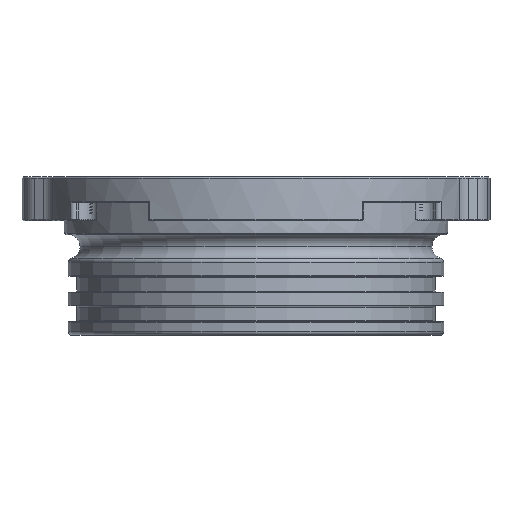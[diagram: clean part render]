
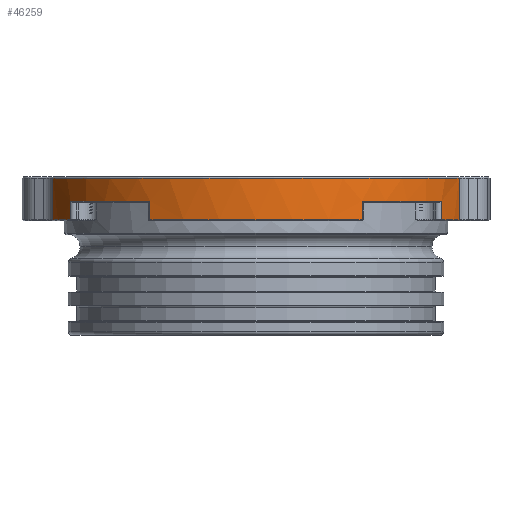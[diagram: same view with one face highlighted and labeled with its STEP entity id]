
A CAD part, front view. The second image highlights one B-rep face of the part: STEP entity #46259.
In plain terms, the highlighted cylindrical face has radius 29 mm (diameter 58 mm), a partial arc.
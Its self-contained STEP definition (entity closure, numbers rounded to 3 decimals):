
#421 = EDGE_CURVE ( 'NONE', #17888, #73580, #60900, .T. ) ;
#586 = VECTOR ( 'NONE', #50448, 1000. ) ;
#2095 = EDGE_CURVE ( 'NONE', #41520, #43624, #24120, .T. ) ;
#2153 = CARTESIAN_POINT ( 'NONE',  ( 14.387, -25.18, 15.7 ) ) ;
#2290 = EDGE_CURVE ( 'NONE', #18908, #17888, #24493, .T. ) ;
#2455 = VECTOR ( 'NONE', #68515, 1000. ) ;
#2671 = CARTESIAN_POINT ( 'NONE',  ( 14.387, -25.18, 0. ) ) ;
#3799 = VERTEX_POINT ( 'NONE', #11006 ) ;
#4275 = VERTEX_POINT ( 'NONE', #56022 ) ;
#4534 = AXIS2_PLACEMENT_3D ( 'NONE', #28830, #34690, #23327 ) ;
#4700 = CARTESIAN_POINT ( 'NONE',  ( -27.555, -9.039, 21.3 ) ) ;
#5004 = VERTEX_POINT ( 'NONE', #2153 ) ;
#5023 = CARTESIAN_POINT ( 'NONE',  ( 0., 0., 21.3 ) ) ;
#6582 = CIRCLE ( 'NONE', #32821, 29. ) ;
#7476 = ORIENTED_EDGE ( 'NONE', *, *, #2095, .T. ) ;
#8871 = DIRECTION ( 'NONE',  ( 0., 0., 1. ) ) ;
#11006 = CARTESIAN_POINT ( 'NONE',  ( -27.555, -9.039, 15.7 ) ) ;
#11600 = ORIENTED_EDGE ( 'NONE', *, *, #36692, .T. ) ;
#13180 = CARTESIAN_POINT ( 'NONE',  ( 0., 0., 0. ) ) ;
#13344 = CARTESIAN_POINT ( 'NONE',  ( -14.387, -25.18, 15.7 ) ) ;
#15807 = AXIS2_PLACEMENT_3D ( 'NONE', #40463, #47858, #76407 ) ;
#15940 = ORIENTED_EDGE ( 'NONE', *, *, #72070, .T. ) ;
#17888 = VERTEX_POINT ( 'NONE', #35080 ) ;
#18353 = EDGE_LOOP ( 'NONE', ( #27210, #75225, #7476, #11600, #56088, #66859, #55709, #43417, #29220, #15940, #31888, #67085 ) ) ;
#18908 = VERTEX_POINT ( 'NONE', #62250 ) ;
#19142 = CARTESIAN_POINT ( 'NONE',  ( -25.18, -14.387, 15.7 ) ) ;
#20158 = DIRECTION ( 'NONE',  ( -1., 0., 0. ) ) ;
#20906 = LINE ( 'NONE', #56107, #56324 ) ;
#20938 = DIRECTION ( 'NONE',  ( 0., 0., 1. ) ) ;
#21797 = LINE ( 'NONE', #2671, #61169 ) ;
#21966 = LINE ( 'NONE', #56403, #2455 ) ;
#22760 = VERTEX_POINT ( 'NONE', #65057 ) ;
#23327 = DIRECTION ( 'NONE',  ( -1., 0., 0. ) ) ;
#23492 = AXIS2_PLACEMENT_3D ( 'NONE', #5023, #69919, #52708 ) ;
#24120 = LINE ( 'NONE', #47975, #65730 ) ;
#24493 = CIRCLE ( 'NONE', #74449, 29. ) ;
#24512 = EDGE_CURVE ( 'NONE', #51114, #4275, #67642, .T. ) ;
#25276 = AXIS2_PLACEMENT_3D ( 'NONE', #53504, #60521, #30832 ) ;
#26762 = CARTESIAN_POINT ( 'NONE',  ( 25.18, -14.387, 15.7 ) ) ;
#26941 = DIRECTION ( 'NONE',  ( 0., 0., 1. ) ) ;
#27210 = ORIENTED_EDGE ( 'NONE', *, *, #50574, .T. ) ;
#27576 = VERTEX_POINT ( 'NONE', #4700 ) ;
#28539 = CIRCLE ( 'NONE', #23492, 29. ) ;
#28830 = CARTESIAN_POINT ( 'NONE',  ( 0., 0., 18.2 ) ) ;
#29220 = ORIENTED_EDGE ( 'NONE', *, *, #421, .T. ) ;
#30832 = DIRECTION ( 'NONE',  ( 1., 0., 0. ) ) ;
#31888 = ORIENTED_EDGE ( 'NONE', *, *, #24512, .T. ) ;
#32821 = AXIS2_PLACEMENT_3D ( 'NONE', #48842, #26941, #62511 ) ;
#34690 = DIRECTION ( 'NONE',  ( 0., 0., 1. ) ) ;
#35080 = CARTESIAN_POINT ( 'NONE',  ( 25.18, -14.387, 18.2 ) ) ;
#36692 = EDGE_CURVE ( 'NONE', #43624, #22760, #63176, .T. ) ;
#37009 = CIRCLE ( 'NONE', #15807, 29. ) ;
#37064 = EDGE_CURVE ( 'NONE', #39364, #5004, #37009, .T. ) ;
#38906 = DIRECTION ( 'NONE',  ( 0., 0., -1. ) ) ;
#39243 = VECTOR ( 'NONE', #67143, 1000. ) ;
#39364 = VERTEX_POINT ( 'NONE', #13344 ) ;
#39793 = DIRECTION ( 'NONE',  ( 0., 0., 1. ) ) ;
#40463 = CARTESIAN_POINT ( 'NONE',  ( 0., 0., 15.7 ) ) ;
#41520 = VERTEX_POINT ( 'NONE', #19142 ) ;
#42932 = CARTESIAN_POINT ( 'NONE',  ( 25.18, -14.387, 0. ) ) ;
#43417 = ORIENTED_EDGE ( 'NONE', *, *, #2290, .T. ) ;
#43624 = VERTEX_POINT ( 'NONE', #67775 ) ;
#45535 = EDGE_CURVE ( 'NONE', #4275, #27576, #28539, .T. ) ;
#46259 = ADVANCED_FACE ( 'NONE', ( #73372 ), #49533, .T. ) ;
#47858 = DIRECTION ( 'NONE',  ( 0., 0., 1. ) ) ;
#47975 = CARTESIAN_POINT ( 'NONE',  ( -25.18, -14.387, 0. ) ) ;
#48842 = CARTESIAN_POINT ( 'NONE',  ( 0., 0., 15.7 ) ) ;
#49533 = CYLINDRICAL_SURFACE ( 'NONE', #64730, 29. ) ;
#49918 = DIRECTION ( 'NONE',  ( 1., 0., 0. ) ) ;
#50058 = CARTESIAN_POINT ( 'NONE',  ( 27.555, -9.039, 0. ) ) ;
#50448 = DIRECTION ( 'NONE',  ( 0., 0., 1. ) ) ;
#50574 = EDGE_CURVE ( 'NONE', #27576, #3799, #21966, .T. ) ;
#51114 = VERTEX_POINT ( 'NONE', #77100 ) ;
#52708 = DIRECTION ( 'NONE',  ( -1., 0., 0. ) ) ;
#53504 = CARTESIAN_POINT ( 'NONE',  ( 0., 0., 15.7 ) ) ;
#55342 = EDGE_CURVE ( 'NONE', #5004, #18908, #21797, .T. ) ;
#55709 = ORIENTED_EDGE ( 'NONE', *, *, #55342, .T. ) ;
#56022 = CARTESIAN_POINT ( 'NONE',  ( 27.555, -9.039, 21.3 ) ) ;
#56088 = ORIENTED_EDGE ( 'NONE', *, *, #59281, .T. ) ;
#56107 = CARTESIAN_POINT ( 'NONE',  ( -14.387, -25.18, 0. ) ) ;
#56324 = VECTOR ( 'NONE', #38906, 1000. ) ;
#56403 = CARTESIAN_POINT ( 'NONE',  ( -27.555, -9.039, 0. ) ) ;
#59281 = EDGE_CURVE ( 'NONE', #22760, #39364, #20906, .T. ) ;
#60521 = DIRECTION ( 'NONE',  ( 0., 0., 1. ) ) ;
#60900 = LINE ( 'NONE', #42932, #39243 ) ;
#61169 = VECTOR ( 'NONE', #39793, 1000. ) ;
#62250 = CARTESIAN_POINT ( 'NONE',  ( 14.387, -25.18, 18.2 ) ) ;
#62511 = DIRECTION ( 'NONE',  ( 1., 0., 0. ) ) ;
#63176 = CIRCLE ( 'NONE', #4534, 29. ) ;
#64730 = AXIS2_PLACEMENT_3D ( 'NONE', #13180, #8871, #49918 ) ;
#65057 = CARTESIAN_POINT ( 'NONE',  ( -14.387, -25.18, 18.2 ) ) ;
#65730 = VECTOR ( 'NONE', #71806, 1000. ) ;
#66859 = ORIENTED_EDGE ( 'NONE', *, *, #37064, .T. ) ;
#67085 = ORIENTED_EDGE ( 'NONE', *, *, #45535, .T. ) ;
#67143 = DIRECTION ( 'NONE',  ( 0., 0., -1. ) ) ;
#67642 = LINE ( 'NONE', #50058, #586 ) ;
#67775 = CARTESIAN_POINT ( 'NONE',  ( -25.18, -14.387, 18.2 ) ) ;
#67857 = CARTESIAN_POINT ( 'NONE',  ( 0., 0., 18.2 ) ) ;
#68515 = DIRECTION ( 'NONE',  ( 0., 0., -1. ) ) ;
#68977 = CIRCLE ( 'NONE', #25276, 29. ) ;
#69643 = EDGE_CURVE ( 'NONE', #3799, #41520, #68977, .T. ) ;
#69919 = DIRECTION ( 'NONE',  ( 0., 0., -1. ) ) ;
#71806 = DIRECTION ( 'NONE',  ( 0., 0., 1. ) ) ;
#72070 = EDGE_CURVE ( 'NONE', #73580, #51114, #6582, .T. ) ;
#73372 = FACE_OUTER_BOUND ( 'NONE', #18353, .T. ) ;
#73580 = VERTEX_POINT ( 'NONE', #26762 ) ;
#74449 = AXIS2_PLACEMENT_3D ( 'NONE', #67857, #20938, #20158 ) ;
#75225 = ORIENTED_EDGE ( 'NONE', *, *, #69643, .T. ) ;
#76407 = DIRECTION ( 'NONE',  ( 1., 0., 0. ) ) ;
#77100 = CARTESIAN_POINT ( 'NONE',  ( 27.555, -9.039, 15.7 ) ) ;
